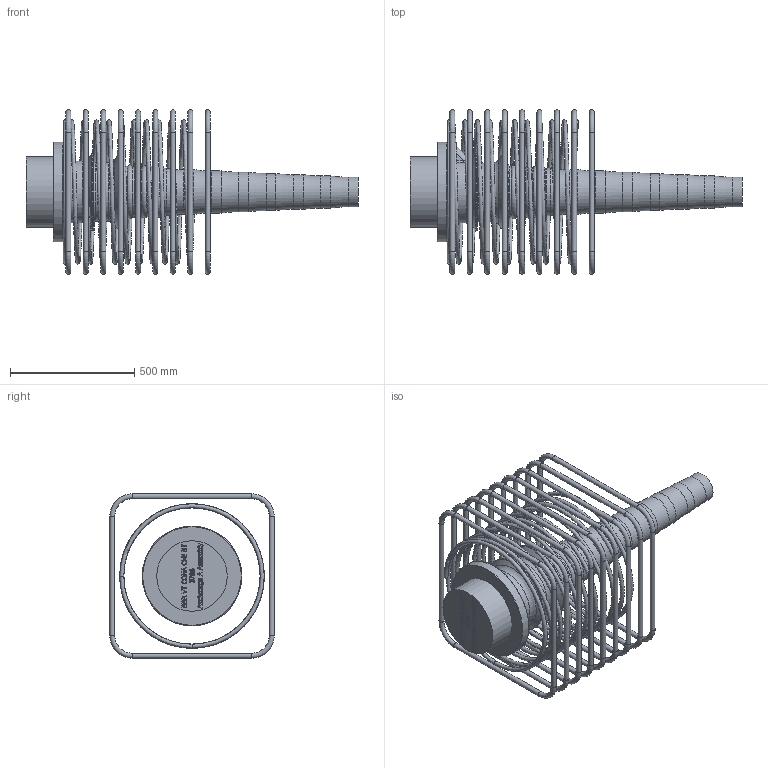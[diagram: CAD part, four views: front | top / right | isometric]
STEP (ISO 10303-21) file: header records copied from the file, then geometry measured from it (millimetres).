
FILE_DESCRIPTION(/* description */ (''),/* implementation_level */ '2;1');
FILE_NAME(/* name */ 'BBR VT CONA CMI BT 3706_Anchorage A Assembly_CS-34,28.stp',/* time_stamp */ '2025-05-21T14:45:18+02:00',/* author */ ('tk'),/* organization */ (''),/* preprocessor_version */ 'ST-DEVELOPER v20',/* originating_system */ 'Autodesk Inventor 2024',/* authorisation */ '');
FILE_SCHEMA (('AUTOMOTIVE_DESIGN { 1 0 10303 214 3 1 1 }'));
Length unit declared in the file: millimetre
Products named in the file (1): BBR VT CONA CMI BT 3706_Anchorage A Assembly_CS-34,28
Bounding box: 1333.56 x 660 x 660 mm (x, y, z)
Volume: 54985752.7 mm3; surface area: 3503498.9 mm2
Topology: 11 solids, 11 shells, 778 faces, 2120 edges, 1400 vertices
Faces by surface type: plane 323, bspline 307, torus 76, cylinder 59, cone 11, sphere 2
Full cylindrical faces by diameter (mm): 20 x36, 35 x1, 57 x1, 119 x1, 129 x1, 139 x1, 149 x1, 159 x1, 169 x1, 179 x1, 235 x1, 283 x1, 313 x1, 328 x1, 400 x1
Entity records: 32659 total; most frequent: CARTESIAN_POINT 13955, ORIENTED_EDGE 4232, DIRECTION 2780, EDGE_CURVE 2116, VERTEX_POINT 1400, LINE 1130, VECTOR 1130, EDGE_LOOP 838
